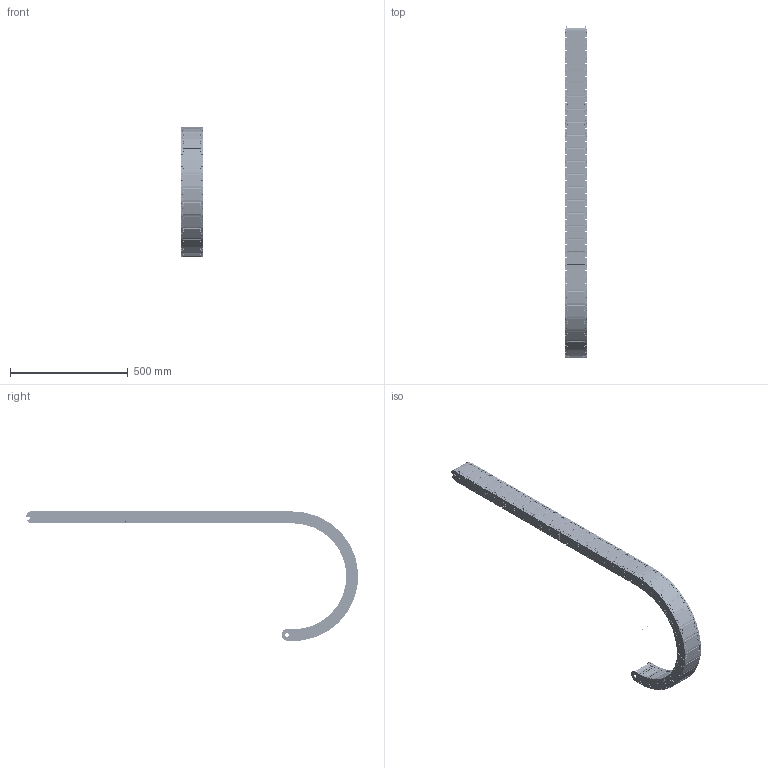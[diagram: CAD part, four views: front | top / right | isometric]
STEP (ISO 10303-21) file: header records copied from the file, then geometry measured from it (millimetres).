
FILE_DESCRIPTION((''),'2;1');
FILE_NAME('C:\Uebbing\PARAMETERKETTEN\KOLIBRI\Kol_50_095_5\KOLIBRI 50_095_5_R250.stp','2015-06-24T13:58:27',('Uebbing'),(''),'Autodesk Inventor 10','Autodesk Inventor 10','');
FILE_SCHEMA(('AUTOMOTIVE_DESIGN { 1 0 10303 214 1 1 1 1 }'));
Length unit declared in the file: millimetre
Products named in the file (5): KOLIBRI 50_095_5_PARAMETRISCH; Achse; Kol_50_095_5 Glied; Kol_50_095_5_Lasche; Kol_50_095_5_Klappdeckel
Assembly tree (38 placements, depth 3):
  KOLIBRI 50_095_5_PARAMETRISCH
    Achse
    Kol_50_095_5 Glied  x35
      Kol_50_095_5_Lasche
      Kol_50_095_5_Klappdeckel
Bounding box: 95 x 1410.44 x 550 mm (x, y, z)
Volume: 2328719.9 mm3; surface area: 1624457.5 mm2
Topology: 71 solids, 71 shells, 26568 faces, 72454 edges, 47218 vertices
Faces by surface type: plane 14667, cylinder 7911, bspline 3850, cone 105, sphere 35
Full cylindrical faces by diameter (mm): 1 x1, 2.011 x70, 3.531 x70, 4 x210, 6 x70, 8 x210, 16 x70
Entity records: 25054 total; most frequent: CARTESIAN_POINT 5474, ORIENTED_EDGE 4074, DIRECTION 3952, EDGE_CURVE 2037, VECTOR 1466, LINE 1466, VERTEX_POINT 1342, AXIS2_PLACEMENT_3D 1243
